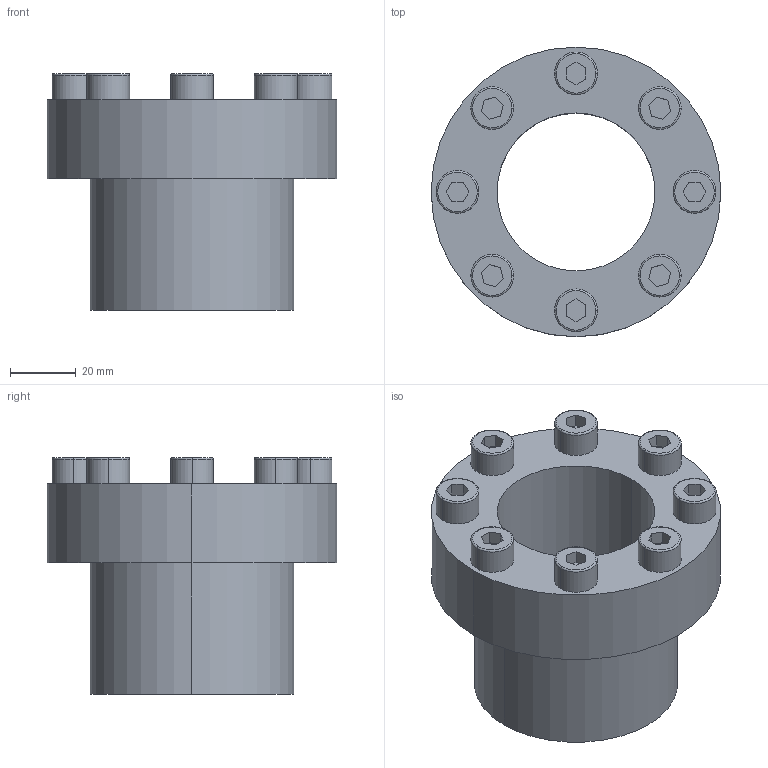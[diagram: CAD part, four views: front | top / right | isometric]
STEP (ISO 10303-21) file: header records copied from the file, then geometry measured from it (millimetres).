
FILE_DESCRIPTION (( 'STEP AP203' ), '1' );
FILE_NAME ('PL-C 48-62.STEP', '2021-10-22T08:45:20', ( '' ), ( '' ), 'SwSTEP 2.0', 'SolidWorks 2018', '' );
FILE_SCHEMA (( 'CONFIG_CONTROL_DESIGN' ));
Length unit declared in the file: millimetre
Products named in the file (1): PL-C 48-62
Bounding box: 88 x 88 x 72 mm (x, y, z)
Volume: 157624.2 mm3; surface area: 35805.1 mm2
Topology: 1 solids, 1 shells, 105 faces, 242 edges, 156 vertices
Faces by surface type: plane 67, cylinder 22, torus 16
Entity records: 3045 total; most frequent: DIRECTION 530, CARTESIAN_POINT 504, ORIENTED_EDGE 484, EDGE_CURVE 242, AXIS2_PLACEMENT_3D 182, LINE 166, VECTOR 166, VERTEX_POINT 156
